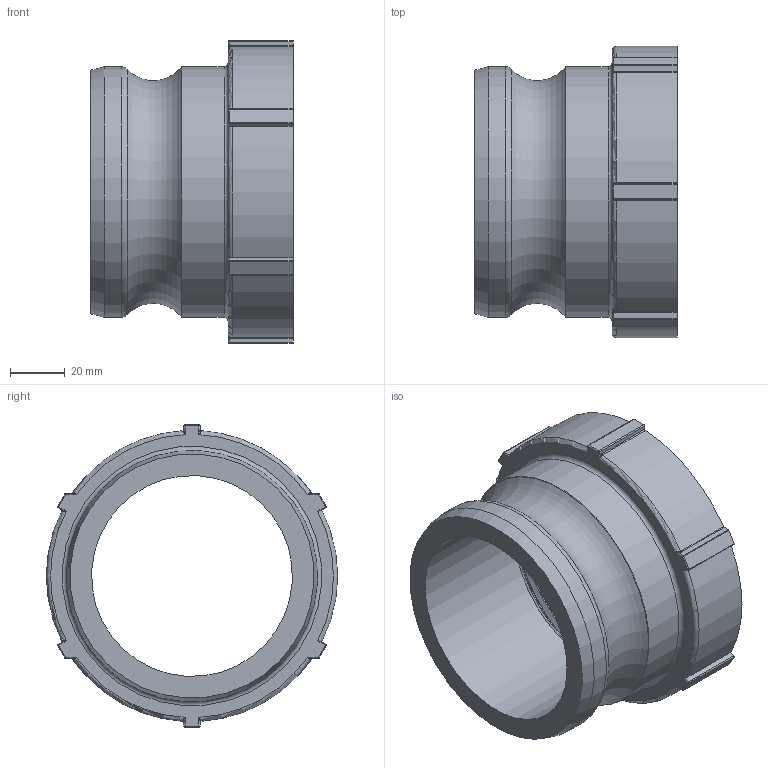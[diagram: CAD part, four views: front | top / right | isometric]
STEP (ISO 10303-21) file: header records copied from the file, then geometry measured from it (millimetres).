
FILE_DESCRIPTION(/* description */ ('Alibre Inc.'),/* implementation_level */ '2;1');
FILE_NAME(/* name */ 'export0',/* time_stamp */ '2015-12-29T12:58:42-05:00',/* author */ (''),/* organization */ (''),/* preprocessor_version */ 'ST-DEVELOPER v14',/* originating_system */ 'Alibre',/* authorisation */ '');
FILE_SCHEMA (('CONFIG_CONTROL_DESIGN'));
Length unit declared in the file: centimetre
Products named in the file (1): ID_1
Bounding box: 73.66 x 106.17 x 110.24 mm (x, y, z)
Volume: 171047 mm3; surface area: 54343.2 mm2
Topology: 1 solids, 1 shells, 139 faces, 353 edges, 199 vertices
Faces by surface type: cylinder 50, bspline 23, plane 23, cone 22, sphere 12, torus 9
Full cylindrical faces by diameter (mm): 73.203 x1, 91.542 x2
Entity records: 40875 total; most frequent: CARTESIAN_POINT 37888, ORIENTED_EDGE 646, DIRECTION 513, EDGE_CURVE 323, AXIS2_PLACEMENT_3D 212, VERTEX_POINT 197, EDGE_LOOP 154, FACE_BOUND 154
